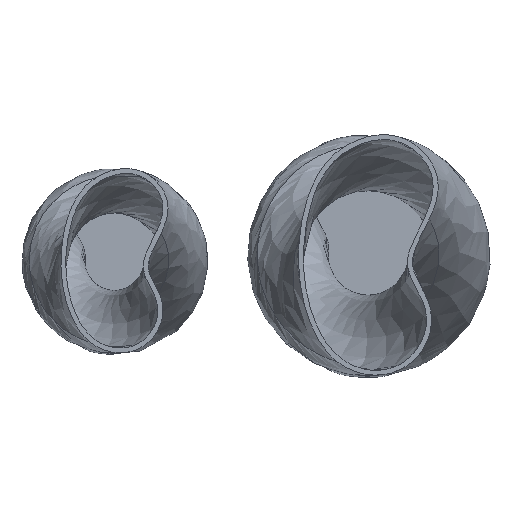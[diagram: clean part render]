
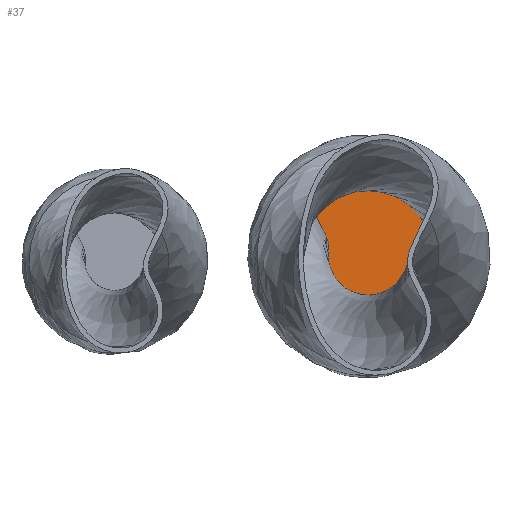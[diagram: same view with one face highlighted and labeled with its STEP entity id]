
A CAD part, top view. The second image highlights one B-rep face of the part: STEP entity #37.
In plain terms, the highlighted planar face has unit normal (0, 0, 1).
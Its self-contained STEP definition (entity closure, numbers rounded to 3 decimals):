
#37=ADVANCED_FACE('',(#53),#202,.T.);
#53=FACE_OUTER_BOUND('',#68,.T.);
#68=EDGE_LOOP('',(#89,#90));
#89=ORIENTED_EDGE('',*,*,#134,.F.);
#90=ORIENTED_EDGE('',*,*,#133,.T.);
#133=EDGE_CURVE('',#180,#181,#157,.T.);
#134=EDGE_CURVE('',#180,#181,#158,.T.);
#157=B_SPLINE_CURVE_WITH_KNOTS('',3,(#3389,#3390,#3391,#3392,#3393,#3394,
#3395,#3396,#3397,#3398,#3399,#3400,#3401,#3402,#3403,#3404,#3405,#3406,
#3407,#3408,#3409,#3410,#3411,#3412,#3413,#3414,#3415,#3416,#3417,#3418,
#3419,#3420,#3421,#3422,#3423,#3424,#3425,#3426,#3427,#3428,#3429,#3430,
#3431,#3432,#3433,#3434,#3435,#3436,#3437),.UNSPECIFIED.,.F.,.F.,(4,3,3,
3,3,3,3,3,3,3,3,3,3,3,3,3,4),(0.,19.41,28.345,
37.378,47.358,58.166,69.379,80.894,
93.215,106.539,135.006,165.223,197.36,
228.5,257.868,285.189,309.22),
 .UNSPECIFIED.);
#158=B_SPLINE_CURVE_WITH_KNOTS('',3,(#3438,#3439,#3440,#3441,#3442,#3443,
#3444,#3445,#3446,#3447,#3448,#3449,#3450,#3451,#3452,#3453,#3454,#3455,
#3456,#3457,#3458,#3459,#3460,#3461,#3462,#3463,#3464,#3465,#3466,#3467,
#3468,#3469,#3470,#3471,#3472,#3473,#3474,#3475,#3476,#3477,#3478,#3479,
#3480,#3481,#3482,#3483,#3484,#3485,#3486),.UNSPECIFIED.,.F.,.F.,(4,3,3,
3,3,3,3,3,3,3,3,3,3,3,3,3,4),(0.,10.406,20.891,
31.076,41.008,50.655,59.985,69.059,
77.592,85.751,93.93,110.718,128.285,
137.246,146.449,166.575,188.312),
 .UNSPECIFIED.);
#180=VERTEX_POINT('',#3178);
#181=VERTEX_POINT('',#3179);
#202=PLANE('',#228);
#228=AXIS2_PLACEMENT_3D('',#1470,#237,$);
#237=DIRECTION('',(0.,0.,1.));
#1470=CARTESIAN_POINT('',(46.975,-101.615,3.126));
#3178=CARTESIAN_POINT('',(57.323,-35.021,3.126));
#3179=CARTESIAN_POINT('',(124.26,82.128,3.126));
#3389=CARTESIAN_POINT('',(57.323,-35.021,3.126));
#3390=CARTESIAN_POINT('',(54.977,-40.302,3.126));
#3391=CARTESIAN_POINT('',(52.522,-46.801,3.126));
#3392=CARTESIAN_POINT('',(51.574,-53.423,3.126));
#3393=CARTESIAN_POINT('',(51.155,-56.349,3.126));
#3394=CARTESIAN_POINT('',(51.025,-59.317,3.126));
#3395=CARTESIAN_POINT('',(51.297,-62.313,3.126));
#3396=CARTESIAN_POINT('',(51.586,-65.494,3.126));
#3397=CARTESIAN_POINT('',(52.3,-68.38,3.126));
#3398=CARTESIAN_POINT('',(53.324,-71.058,3.126));
#3399=CARTESIAN_POINT('',(54.584,-74.349,3.126));
#3400=CARTESIAN_POINT('',(56.321,-77.313,3.126));
#3401=CARTESIAN_POINT('',(58.087,-79.764,3.126));
#3402=CARTESIAN_POINT('',(60.311,-82.851,3.126));
#3403=CARTESIAN_POINT('',(62.839,-85.494,3.126));
#3404=CARTESIAN_POINT('',(65.391,-87.659,3.126));
#3405=CARTESIAN_POINT('',(68.373,-90.19,3.126));
#3406=CARTESIAN_POINT('',(71.547,-92.208,3.126));
#3407=CARTESIAN_POINT('',(74.746,-93.726,3.126));
#3408=CARTESIAN_POINT('',(78.317,-95.422,3.126));
#3409=CARTESIAN_POINT('',(81.99,-96.529,3.126));
#3410=CARTESIAN_POINT('',(85.675,-97.077,3.126));
#3411=CARTESIAN_POINT('',(89.714,-97.677,3.126));
#3412=CARTESIAN_POINT('',(93.878,-97.616,3.126));
#3413=CARTESIAN_POINT('',(97.914,-97.071,3.126));
#3414=CARTESIAN_POINT('',(102.205,-96.492,3.126));
#3415=CARTESIAN_POINT('',(106.543,-95.343,3.126));
#3416=CARTESIAN_POINT('',(110.739,-93.7,3.126));
#3417=CARTESIAN_POINT('',(118.585,-90.628,3.126));
#3418=CARTESIAN_POINT('',(126.948,-85.413,3.126));
#3419=CARTESIAN_POINT('',(133.772,-77.839,3.126));
#3420=CARTESIAN_POINT('',(139.79,-71.159,3.126));
#3421=CARTESIAN_POINT('',(144.762,-62.445,3.126));
#3422=CARTESIAN_POINT('',(148.499,-51.906,3.126));
#3423=CARTESIAN_POINT('',(151.89,-42.344,3.126));
#3424=CARTESIAN_POINT('',(154.123,-31.667,3.126));
#3425=CARTESIAN_POINT('',(155.309,-20.649,3.126));
#3426=CARTESIAN_POINT('',(156.413,-10.385,3.126));
#3427=CARTESIAN_POINT('',(156.602,0.033,3.126));
#3428=CARTESIAN_POINT('',(155.739,10.394,3.126));
#3429=CARTESIAN_POINT('',(154.901,20.462,3.126));
#3430=CARTESIAN_POINT('',(153.1,30.108,3.126));
#3431=CARTESIAN_POINT('',(150.429,39.175,3.126));
#3432=CARTESIAN_POINT('',(147.699,48.441,3.126));
#3433=CARTESIAN_POINT('',(144.099,56.942,3.126));
#3434=CARTESIAN_POINT('',(139.774,64.175,3.126));
#3435=CARTESIAN_POINT('',(135.26,71.728,3.126));
#3436=CARTESIAN_POINT('',(130.018,77.8,3.126));
#3437=CARTESIAN_POINT('',(124.26,82.128,3.126));
#3438=CARTESIAN_POINT('',(57.323,-35.021,3.126));
#3439=CARTESIAN_POINT('',(58.718,-31.875,3.126));
#3440=CARTESIAN_POINT('',(60.307,-28.645,3.126));
#3441=CARTESIAN_POINT('',(61.786,-25.623,3.126));
#3442=CARTESIAN_POINT('',(63.28,-22.569,3.126));
#3443=CARTESIAN_POINT('',(64.855,-19.343,3.126));
#3444=CARTESIAN_POINT('',(66.24,-16.133,3.126));
#3445=CARTESIAN_POINT('',(67.51,-13.188,3.126));
#3446=CARTESIAN_POINT('',(68.766,-9.931,3.126));
#3447=CARTESIAN_POINT('',(69.635,-6.553,3.126));
#3448=CARTESIAN_POINT('',(70.426,-3.476,3.126));
#3449=CARTESIAN_POINT('',(70.93,-0.179,3.126));
#3450=CARTESIAN_POINT('',(70.747,3.236,3.126));
#3451=CARTESIAN_POINT('',(70.565,6.638,3.126));
#3452=CARTESIAN_POINT('',(69.714,9.761,3.126));
#3453=CARTESIAN_POINT('',(68.644,12.57,3.126));
#3454=CARTESIAN_POINT('',(67.501,15.569,3.126));
#3455=CARTESIAN_POINT('',(66.037,18.382,3.126));
#3456=CARTESIAN_POINT('',(64.606,20.962,3.126));
#3457=CARTESIAN_POINT('',(63.132,23.62,3.126));
#3458=CARTESIAN_POINT('',(61.601,26.184,3.126));
#3459=CARTESIAN_POINT('',(60.134,28.856,3.126));
#3460=CARTESIAN_POINT('',(58.856,31.185,3.126));
#3461=CARTESIAN_POINT('',(57.495,33.843,3.126));
#3462=CARTESIAN_POINT('',(56.478,36.549,3.126));
#3463=CARTESIAN_POINT('',(55.566,38.978,3.126));
#3464=CARTESIAN_POINT('',(54.86,41.61,3.126));
#3465=CARTESIAN_POINT('',(54.44,44.419,3.126));
#3466=CARTESIAN_POINT('',(54.041,47.089,3.126));
#3467=CARTESIAN_POINT('',(53.915,49.818,3.126));
#3468=CARTESIAN_POINT('',(54.071,52.56,3.126));
#3469=CARTESIAN_POINT('',(54.414,58.607,3.126));
#3470=CARTESIAN_POINT('',(56.077,64.035,3.126));
#3471=CARTESIAN_POINT('',(58.32,68.568,3.126));
#3472=CARTESIAN_POINT('',(61.178,74.345,3.126));
#3473=CARTESIAN_POINT('',(65.081,78.913,3.126));
#3474=CARTESIAN_POINT('',(68.983,82.226,3.126));
#3475=CARTESIAN_POINT('',(71.357,84.24,3.126));
#3476=CARTESIAN_POINT('',(73.848,85.897,3.126));
#3477=CARTESIAN_POINT('',(76.377,87.224,3.126));
#3478=CARTESIAN_POINT('',(79.172,88.69,3.126));
#3479=CARTESIAN_POINT('',(82.041,89.769,3.126));
#3480=CARTESIAN_POINT('',(84.932,90.499,3.126));
#3481=CARTESIAN_POINT('',(91.352,92.121,3.126));
#3482=CARTESIAN_POINT('',(98.286,92.104,3.126));
#3483=CARTESIAN_POINT('',(104.73,90.819,3.126));
#3484=CARTESIAN_POINT('',(111.307,89.507,3.126));
#3485=CARTESIAN_POINT('',(118.155,86.725,3.126));
#3486=CARTESIAN_POINT('',(124.26,82.128,3.126));
